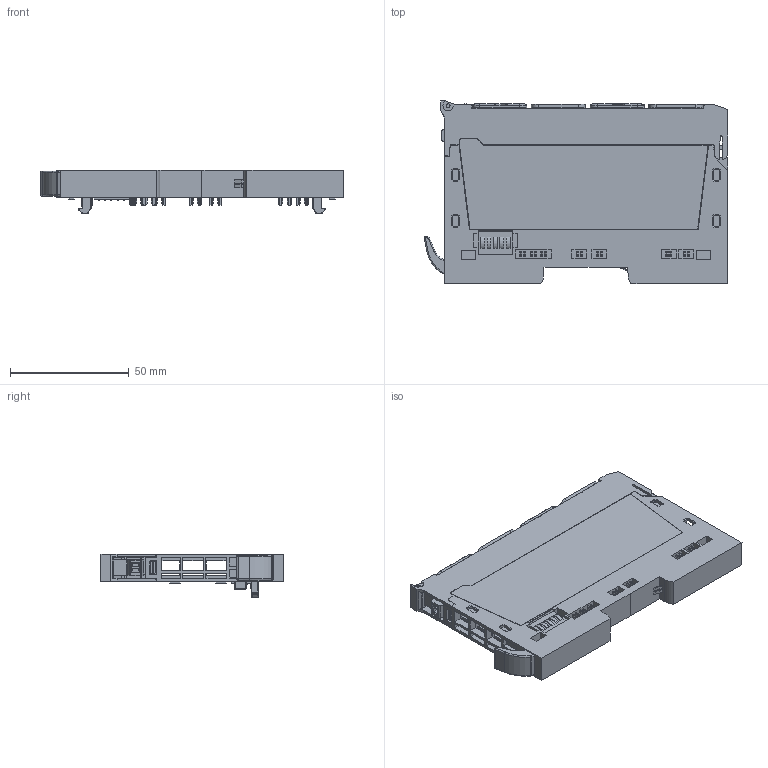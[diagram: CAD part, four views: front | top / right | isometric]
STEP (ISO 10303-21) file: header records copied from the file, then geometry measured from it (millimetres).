
FILE_DESCRIPTION(('CATIA V5R19 STEP'),'2;1');
FILE_NAME('\\srvde068\Desktop\w011128\Gordon Brandlable GE\RT-5112_UR20_2CNT-100.stp','2015-08-11T06:37:12+00:00',('Weidmueller Interface'),('WI'),'CATIA Version 5 Release 20 SP 5 (IN-10)','CATIA V5 STEP AP214','none');
FILE_SCHEMA(('AUTOMOTIVE_DESIGN { 1 0 10303 214 1 1 1 1 }'));
Products named in the file (1): RT-5112_UR20_2CNT-100
Bounding box: 127.88 x 77.45 x 18.5 mm (x, y, z)
Volume: 60425.3 mm3; surface area: 71704.5 mm2
Topology: 16 solids, 24 shells, 4624 faces, 12829 edges, 8317 vertices
Faces by surface type: plane 3270, cylinder 736, bspline 334, cone 172, torus 44, revolution 32, sphere 28, extrusion 8
Entity records: 183035 total; most frequent: CARTESIAN_POINT 45858, ORIENTED_EDGE 25590, DIRECTION 16979, EDGE_CURVE 12795, VECTOR 9783, LINE 9775, VERTEX_POINT 8317, EDGE_LOOP 4870
